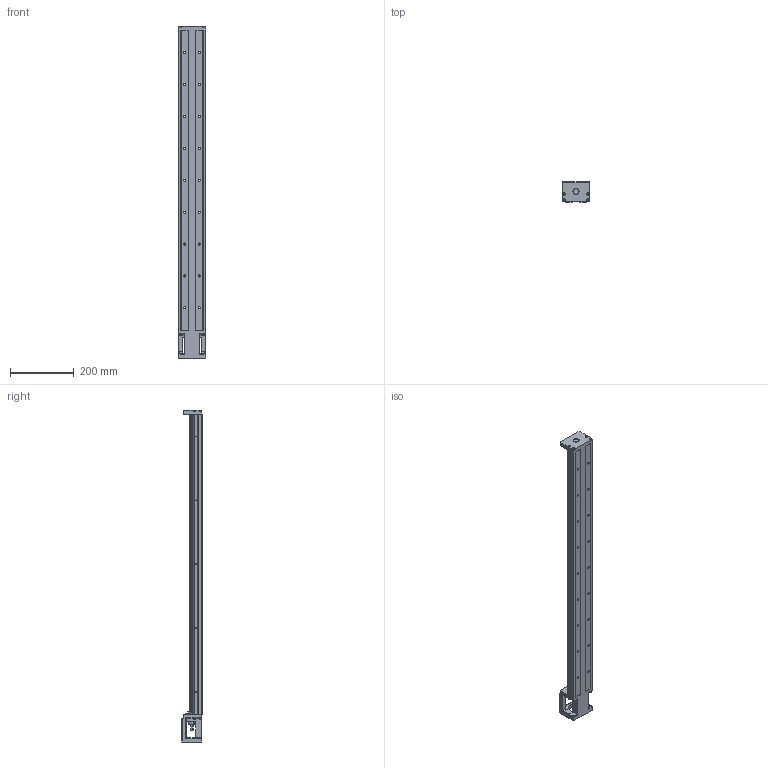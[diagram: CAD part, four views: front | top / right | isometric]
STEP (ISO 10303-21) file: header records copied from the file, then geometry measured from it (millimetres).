
FILE_DESCRIPTION (( 'STEP AP214' ), '1' );
FILE_NAME ('LINEAR ACTUATOR.STEP', '2021-03-08T22:55:32', ( '' ), ( '' ), 'SwSTEP 2.0', 'SolidWorks 2021', '' );
FILE_SCHEMA (( 'AUTOMOTIVE_DESIGN' ));
Length unit declared in the file: millimetre
Products named in the file (1): LINEAR ACTUATOR
Bounding box: 86 x 64 x 1040 mm (x, y, z)
Volume: 1625383.1 mm3; surface area: 368698.5 mm2
Topology: 1 solids, 1 shells, 984 faces, 2727 edges, 1769 vertices
Faces by surface type: cylinder 710, plane 210, bspline 40, cone 18, sphere 6
Entity records: 71025 total; most frequent: CARTESIAN_POINT 48764, ORIENTED_EDGE 5426, DIRECTION 3973, EDGE_CURVE 2713, VERTEX_POINT 1769, AXIS2_PLACEMENT_3D 1399, VECTOR 1175, LINE 1175
